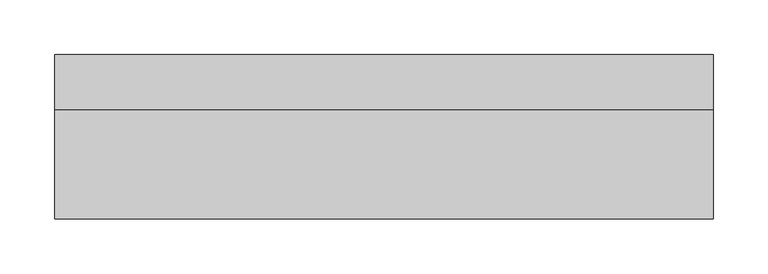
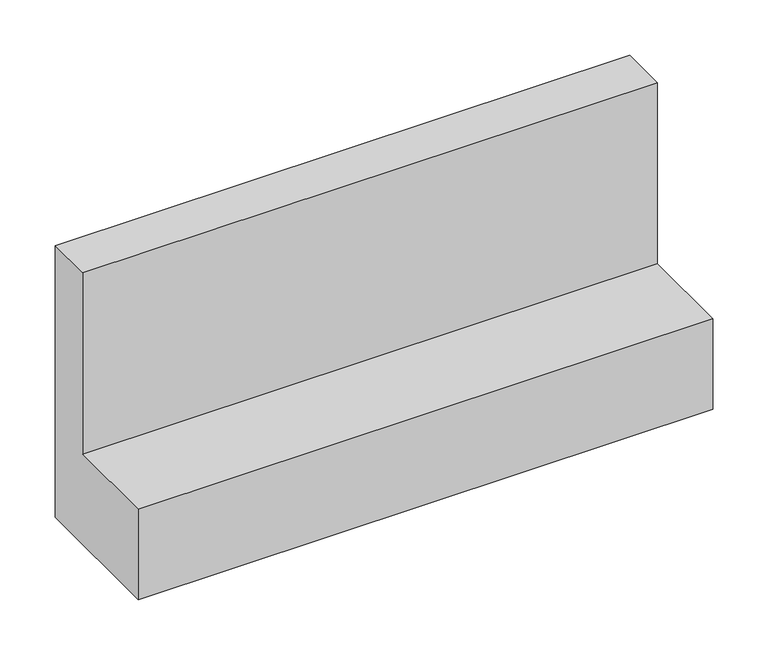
"""IFC4 building model written with IfcOpenShell, lengths in millimetres: proxy geometry, Módulo L de Concreto Celular - Celucon : MLCC 15x30x60cm (L x A x C)."""

from ifc_helpers import new_model, si_unit, frame, origin, place, context, project, spatial, polyline, outline, extrude, source, transform, mapped, element, save


def generic_models_f595f179(model_context):
    return source(origin(), model_context, "Body", "SweptSolid", [
        extrude(outline(polyline([(75.0, 0.0), (-75.0, 0.0), (-75.0, 100.0), (25.0, 100.0), (25.0, 300.0), (75.0, 300.0), (75.0, 0.0)])), frame((-300.0, 0.0, 0.0), z_axis=(1.0, 0.0, 0.0), x_axis=(0.0, 1.0, 0.0)), (0.0, 0.0, 1.0), 600.0),
    ])


if __name__ == "__main__":
    model = new_model("IFC4")
    model_context = context("Model", 3, world=origin())
    ifc_project = project(units=[si_unit("LENGTHUNIT", "METRE", prefix="MILLI")], contexts=[model_context])
    site = spatial("IfcSite", under=ifc_project)
    building = spatial("IfcBuilding", under=site)
    placement = place(None, origin())
    generic_models_shape = generic_models_f595f179(model_context)
    element("IfcBuildingElementProxy", 1, Name="Módulo L de Concreto Celular - Celucon : MLCC 15x30x60cm (L x A x C)", ObjectType="Módulo L de Concreto Celular - Celucon : MLCC 15x30x60cm (L x A x C)", at=placement, inside=building, context=model_context, shape_type="MappedRepresentation", body=[
        mapped(generic_models_shape, transform((0.0, 0.0, 0.0), x_axis=(1.0, 0.0, 0.0), y_axis=(0.0, 1.0, 0.0), z_axis=(0.0, 0.0, 1.0))),
    ])
    save(model, "model.ifc")
